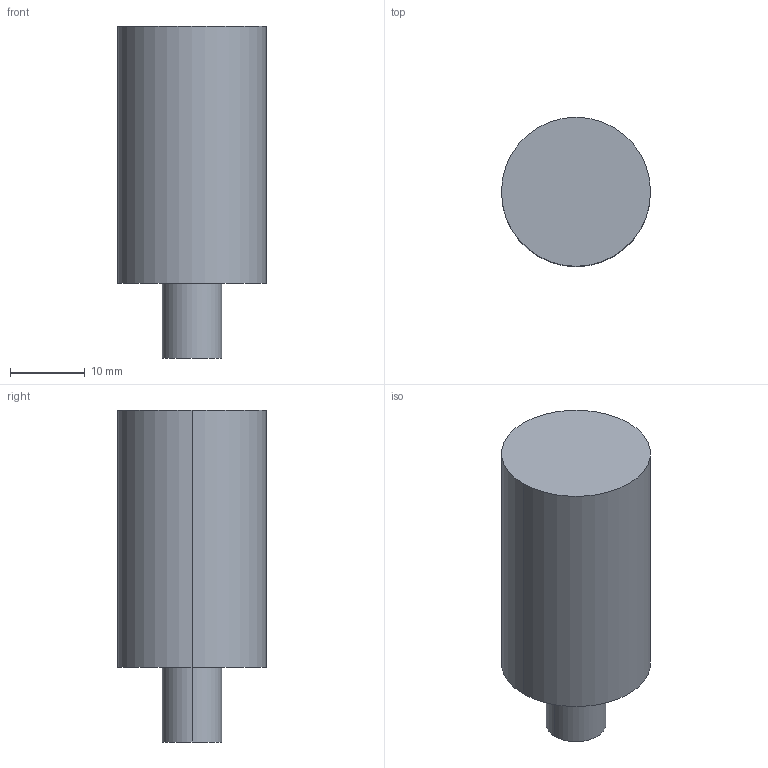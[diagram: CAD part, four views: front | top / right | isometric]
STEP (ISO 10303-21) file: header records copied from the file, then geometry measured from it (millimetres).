
FILE_DESCRIPTION (( 'STEP AP203' ), '1' );
FILE_NAME ('1111.STEP', '2024-04-18T07:08:24', ( '' ), ( '' ), 'SwSTEP 2.0', 'SolidWorks 2022', '' );
FILE_SCHEMA (( 'CONFIG_CONTROL_DESIGN' ));
Length unit declared in the file: millimetre
Products named in the file (1): 1111
Bounding box: 20 x 20 x 44.54 mm (x, y, z)
Volume: 11353.5 mm3; surface area: 3049.8 mm2
Topology: 1 solids, 1 shells, 7 faces, 12 edges, 8 vertices
Faces by surface type: cylinder 4, plane 3
Entity records: 251 total; most frequent: DIRECTION 36, CARTESIAN_POINT 28, ORIENTED_EDGE 24, AXIS2_PLACEMENT_3D 16, EDGE_CURVE 12, PERSON_AND_ORGANIZATION 8, CIRCLE 8, VERTEX_POINT 8
